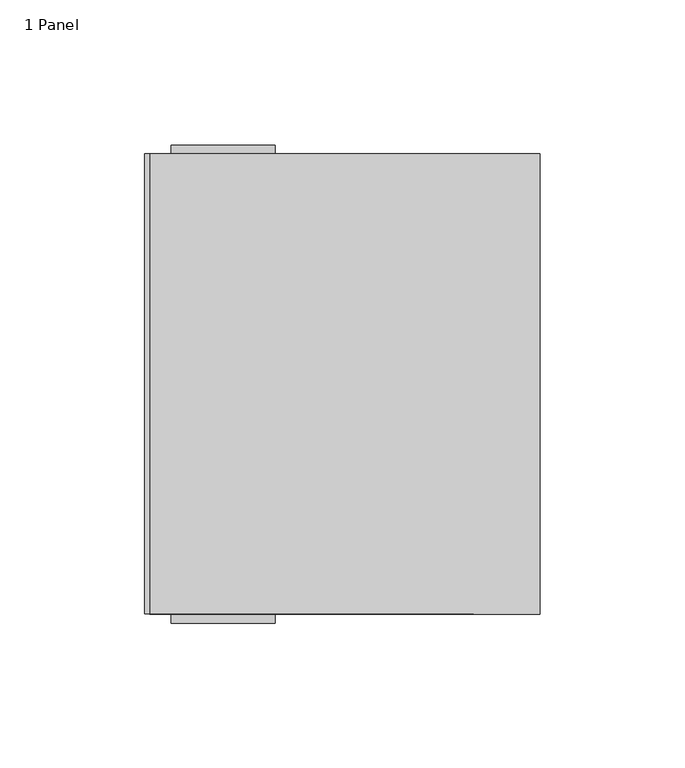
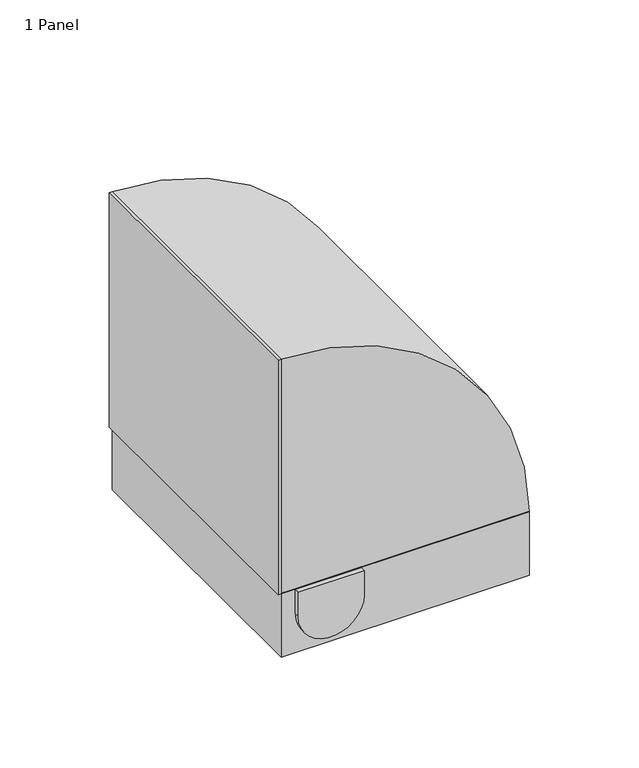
"""IFC4 building model written with IfcOpenShell, lengths in millimetres: electric appliance geometry, Housing-Wall_Mount-Corning-Single_Panel : 1 Panel."""

from ifc_helpers import new_model, si_unit, point, frame, frame_2d, origin, place, context, project, spatial, polyline, circle_curve, trimmed, segment, composite_curve, outline, extrude, faceted_brep, source, transform, mapped, element, save


def electric_appliance_1_panel_40815d9f(model_context):
    return source(origin(), model_context, "Body", "SolidModel", [
        extrude(outline(polyline([(67.31, 66.5118851), (67.31, -68.8701149), (65.7225, -68.8701149), (65.7225, 66.5118851), (67.31, 66.5118851)])), frame((0.0, 0.0, 1.5875), z_axis=(0.0, 0.0, 1.0), x_axis=(1.0, 0.0, 0.0)), (0.0, 0.0, 1.0), 34.9885),
        extrude(outline(polyline([(-68.8975, -80.5541149), (-68.8975, 78.1958851), (-67.31, 78.1958851), (-67.31, -80.5541149), (-68.8975, -80.5541149)])), frame((0.0, 0.0, 36.576), z_axis=(0.0, 0.0, 1.0), x_axis=(1.0, 0.0, 0.0)), (0.0, 0.0, 1.0), 134.62),
        faceted_brep([(67.31, 78.1958851, 36.576), (-67.31, 78.1958851, 36.576), (-67.31, -80.5541149, 36.576), (67.31, -80.5541149, 36.576), (67.31, -68.8701149, 36.576), (65.7225, -68.8701149, 36.576), (65.7225, -78.9666149, 36.576), (-65.7225, -78.9666149, 36.576), (-65.7225, 76.6083851, 36.576), (65.7225, 76.6083851, 36.576), (65.7225, 66.5118851, 36.576), (67.31, 66.5118851, 36.576), (67.31, 78.1958851, 0.0), (67.31, -80.5541149, 0.0), (-67.31, -80.5541149, 0.0), (-67.31, 78.1958851, 0.0), (67.31, 66.5118851, 1.5875), (67.31, -68.8701149, 1.5875), (65.7225, 76.6083851, 1.5875), (-65.7225, 76.6083851, 1.5875), (-65.7225, -78.9666149, 1.5875), (65.7225, -78.9666149, 1.5875), (65.7225, -68.8701149, 1.5875), (65.7225, 66.5118851, 1.5875)], [[[0, 1, 2, 3, 4, 5, 6, 7, 8, 9, 10, 11]], [[12, 13, 14, 15]], [[1, 0, 12, 15]], [[2, 1, 15, 14]], [[3, 2, 14, 13]], [[13, 12, 0, 11, 16, 17, 4, 3]], [[18, 19, 20, 21, 22, 17, 16, 23]], [[19, 18, 9, 8]], [[20, 19, 8, 7]], [[21, 20, 7, 6]], [[22, 21, 6, 5]], [[17, 22, 5, 4]], [[23, 16, 11, 10]], [[18, 23, 10, 9]]]),
        extrude(outline(composite_curve([segment(polyline([(36.6312715, -59.8714173), (22.8514891, -59.8714173)]), True, "CONTINUOUS"), segment(trimmed(circle_curve(frame_2d((22.8514891, -41.9154239)), 17.9559934), [point((22.8514891, -59.8714173))], [point((22.8514891, -23.9594306))], False, "CARTESIAN"), True, "CONTINUOUS"), segment(polyline([(22.8514891, -23.9594306), (36.6312715, -23.9594306), (36.6312715, -59.8714173)]), True, "CONTINUOUS")], self_intersect=False)), frame((0.0, -83.6463259, 0.0), z_axis=(0.0, 1.0, 0.0), x_axis=(0.0, 0.0, 1.0)), (0.0, 0.0, 1.0), 3.092211),
        extrude(outline(composite_curve([segment(polyline([(36.6312715, -59.8714173), (22.8514891, -59.8714173)]), True, "CONTINUOUS"), segment(trimmed(circle_curve(frame_2d((22.8514891, -41.9154239)), 17.9559934), [point((22.8514891, -59.8714173))], [point((22.8514891, -23.9594306))], False, "CARTESIAN"), True, "CONTINUOUS"), segment(polyline([(22.8514891, -23.9594306), (36.6312715, -23.9594306), (36.6312715, -59.8714173)]), True, "CONTINUOUS")], self_intersect=False)), frame((0.0, 78.1958851, 0.0), z_axis=(0.0, 1.0, 0.0), x_axis=(0.0, 0.0, 1.0)), (0.0, 0.0, 1.0), 3.0029087),
        extrude(outline(composite_curve([segment(polyline([(36.576, -67.31), (36.576, 67.3584681)]), True, "CONTINUOUS"), segment(trimmed(circle_curve(frame_2d((36.576, -67.31)), 134.6684681), [point((36.576, 67.3584681))], [point((171.2444681, -67.31))], False, "CARTESIAN"), True, "CONTINUOUS"), segment(polyline([(171.2444681, -67.31), (36.576, -67.31)]), True, "CONTINUOUS")], self_intersect=False)), frame((0.0, -80.5541149, 0.0), z_axis=(0.0, 1.0, 0.0), x_axis=(0.0, 0.0, 1.0)), (0.0, 0.0, 1.0), 158.75),
    ])


if __name__ == "__main__":
    model = new_model("IFC4")
    model_context = context("Model", 3, world=origin())
    ifc_project = project(units=[si_unit("LENGTHUNIT", "METRE", prefix="MILLI")], contexts=[model_context])
    site = spatial("IfcSite", under=ifc_project)
    building = spatial("IfcBuilding", under=site)
    placement = place(None, origin())
    electric_appliance_1_panel_shape = electric_appliance_1_panel_40815d9f(model_context)
    element("IfcElectricAppliance", 1, ObjectType="Housing-Wall_Mount-Corning-Single_Panel : 1 Panel", at=placement, inside=building, context=model_context, shape_type="MappedRepresentation", body=[
        mapped(electric_appliance_1_panel_shape, transform((0.0, 0.0, 0.0), x_axis=(1.0, 0.0, 0.0), y_axis=(0.0, 1.0, 0.0), z_axis=(0.0, 0.0, 1.0))),
    ])
    save(model, "model.ifc")
